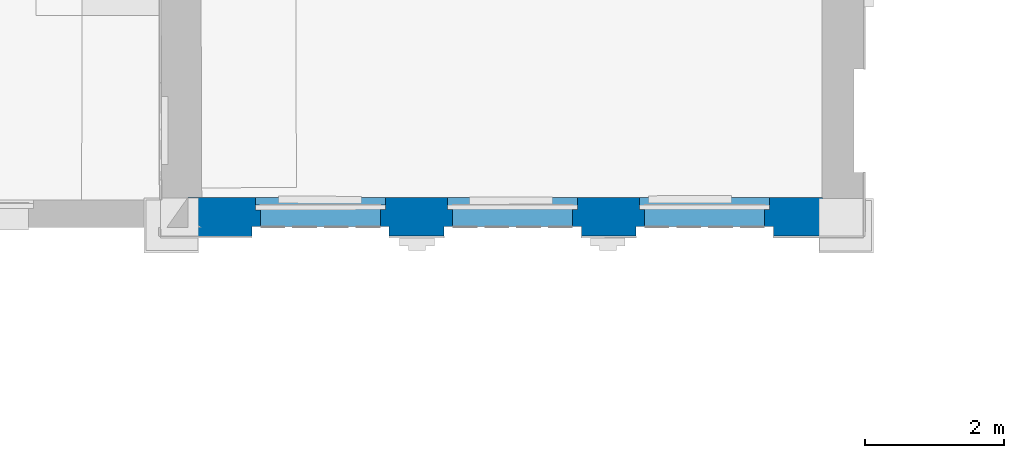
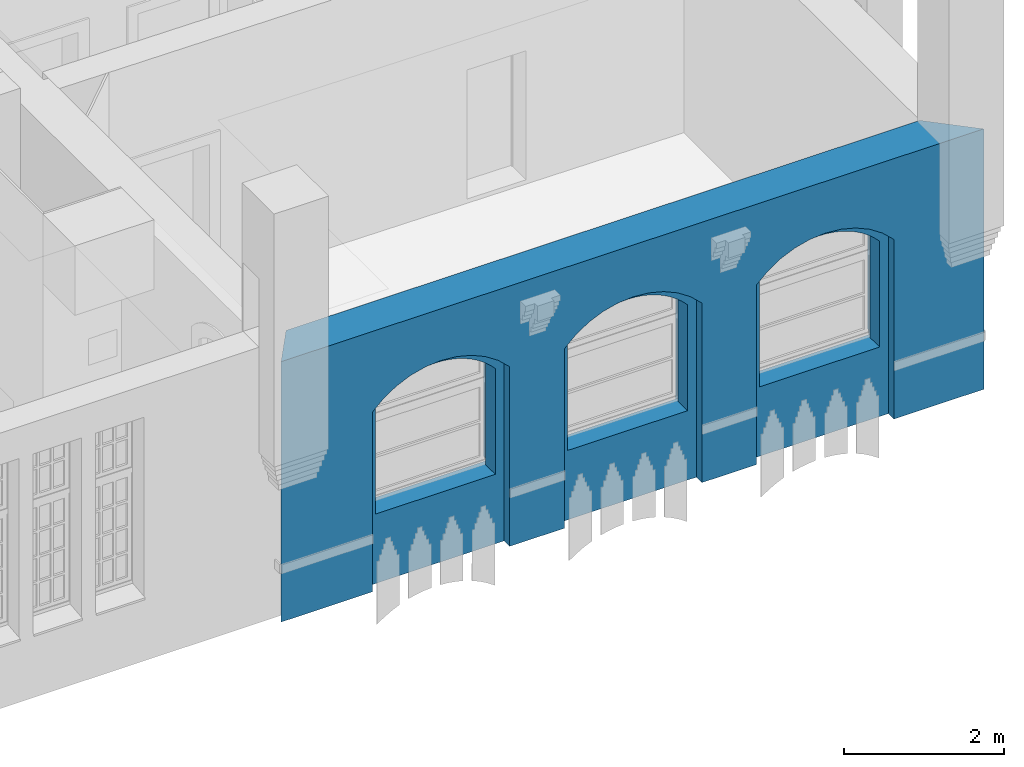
# One storey, part 26 of 90: 1 wall, 9 openings.
"""IFC2X3 building model written with IfcOpenShell, lengths in metres."""

import ifcopenshell
import ifcopenshell.guid

model = None  # the IFC model being written
_history = None  # IfcOwnerHistory: only IFC2X3 demands one
_inside = {}  # id of a spatial element -> (the spatial element, [elements in it])
_under = {}  # id of a project, library or spatial element -> (it, [spatial elements below it])
_declared = {}  # id of a project -> (the project, [libraries it declares])
_typed = {}  # id of a type object -> (the type object, [elements of that type])
_made_of = {}  # id of a material, layer set ... -> (it, [elements and type objects made of it])


def new_model(schema):
    """Start an empty IFC model of exactly this schema.

    Asked for "IFC4X3", IfcOpenShell would pick the latest addendum, in which some entities
    have other attributes; the version numbers below select the first issue.
    IFC2X3 requires an IfcOwnerHistory on every rooted entity: one is made here for all.
    """
    global model, _history
    if schema == "IFC4X3":
        model = ifcopenshell.file(schema_version=(4, 3, 0, 0))
    else:
        model = ifcopenshell.file(schema=schema)
    _inside.clear()
    _under.clear()
    _declared.clear()
    _typed.clear()
    _made_of.clear()
    _history = None
    if model.schema == "IFC2X3":
        org = make("IfcOrganization", Name="unknown")
        user = make(
            "IfcPersonAndOrganization",
            ThePerson=make("IfcPerson", FamilyName="unknown"),
            TheOrganization=org,
        )
        app = make(
            "IfcApplication",
            ApplicationDeveloper=org,
            Version="unknown",
            ApplicationFullName="unknown",
            ApplicationIdentifier="unknown",
        )
        _history = make(
            "IfcOwnerHistory",
            OwningUser=user,
            OwningApplication=app,
            ChangeAction="ADDED",
            CreationDate=0,
        )
    return model


def make(cls, **values):
    """One entity of the class cls with the attributes given. An attribute that is None is left unset."""
    return model.create_entity(
        cls, **{name: value for name, value in values.items() if value is not None}
    )


def entity(cls, *values):
    """Any entity or typed value of the class cls, its attributes in the order of the schema. None: left unset."""
    e = model.create_entity(cls)
    for i, value in enumerate(values):
        if value is not None:
            e[i] = value
    return e


def rooted(cls, **values):
    """An entity with a GlobalId (a new one), such as an element, a storey or a relation."""
    return make(cls, GlobalId=ifcopenshell.guid.new(), OwnerHistory=_history, **values)


def si_unit(unit_type, name, prefix=None):
    """IfcSIUnit, for example si_unit("LENGTHUNIT", "METRE", prefix="MILLI")."""
    return make("IfcSIUnit", UnitType=unit_type, Prefix=prefix, Name=name)


def converted_unit(unit_type, name, factor, base, dimensions=None, offset=None):
    """IfcConversionBasedUnit, such as the inch: factor (a typed value) times the base unit."""
    return make(
        "IfcConversionBasedUnit"
        if offset is None
        else "IfcConversionBasedUnitWithOffset",
        ConversionOffset=offset,
        Dimensions=None
        if dimensions is None
        else entity("IfcDimensionalExponents", *dimensions),
        UnitType=unit_type,
        Name=name,
        ConversionFactor=make(
            "IfcMeasureWithUnit", ValueComponent=factor, UnitComponent=base
        ),
    )


def derived_unit(unit_type, elements):
    """IfcDerivedUnit: a product of units, each with its exponent."""
    return make(
        "IfcDerivedUnit",
        Elements=[
            make("IfcDerivedUnitElement", Unit=unit, Exponent=power)
            for unit, power in elements
        ],
        UnitType=unit_type,
    )


def money_unit(currency):
    """IfcMonetaryUnit."""
    return make("IfcMonetaryUnit", Currency=currency)


def assignment(units):
    """IfcUnitAssignment: the units of a project."""
    return None if units is None else make("IfcUnitAssignment", Units=units)


def point(xyz):
    """IfcCartesianPoint."""
    return None if xyz is None else make("IfcCartesianPoint", Coordinates=xyz)


def direction(xyz):
    """IfcDirection."""
    return None if xyz is None else make("IfcDirection", DirectionRatios=xyz)


def frame(location, z_axis=None, x_axis=None):
    """IfcAxis2Placement3D, a coordinate frame: its origin and axes. An axis left out is left unset."""
    return make(
        "IfcAxis2Placement3D",
        Location=point(location),
        Axis=direction(z_axis),
        RefDirection=direction(x_axis),
    )


def frame_2d(location, x_axis=None):
    """IfcAxis2Placement2D, a coordinate frame in the plane: its origin and x axis."""
    return make(
        "IfcAxis2Placement2D", Location=point(location), RefDirection=direction(x_axis)
    )


def origin_with_axes():
    """The frame at (0, 0, 0) with the z axis (0, 0, 1) and the x axis (1, 0, 0) written out."""
    return frame((0.0, 0.0, 0.0), z_axis=(0.0, 0.0, 1.0), x_axis=(1.0, 0.0, 0.0))


def origin_2d_with_axis():
    """The frame at (0, 0) in the plane with the x axis (1, 0) written out."""
    return frame_2d((0.0, 0.0), x_axis=(1.0, 0.0))


def place(relative_to, where):
    """IfcLocalPlacement: puts the frame where relative to a parent placement (None: the world)."""
    return make(
        "IfcLocalPlacement", PlacementRelTo=relative_to, RelativePlacement=where
    )


def context(
    kind, dimensions, precision=None, world=None, true_north=None, identifier=None
):
    """IfcGeometricRepresentationContext, for example the 3D "Model" context."""
    return make(
        "IfcGeometricRepresentationContext",
        ContextIdentifier=identifier,
        ContextType=kind,
        CoordinateSpaceDimension=dimensions,
        Precision=precision,
        WorldCoordinateSystem=world,
        TrueNorth=true_north,
    )


def subcontext(parent, identifier, kind, view, scale=None):
    """IfcGeometricRepresentationSubContext, for example "Body" below "Model"."""
    return make(
        "IfcGeometricRepresentationSubContext",
        ContextIdentifier=identifier,
        ContextType=kind,
        ParentContext=parent,
        TargetScale=scale,
        TargetView=view,
    )


def project(units=None, contexts=None):
    """IfcProject with its units and contexts."""
    return rooted(
        "IfcProject",
        Name="project",
        RepresentationContexts=contexts,
        UnitsInContext=assignment(units),
    )


def spatial(cls, under=None, at=None, **own):
    """A site, building, storey or space (cls), placed at a placement, below another one or the project."""
    s = rooted(cls, ObjectPlacement=at, **own)
    if under is not None:
        _under.setdefault(under.id(), (under, []))[1].append(s)
    return s


def polyline(points):
    """IfcPolyline through the points."""
    return make("IfcPolyline", Points=[point(p) for p in points])


def profile(cls, at=None, kind="AREA", **sizes):
    """A parametric profile (cls). Its sizes go by their IFC names, for example OverallWidth=200.0."""
    return make(cls, ProfileType=kind, Position=at, **sizes)


def rectangle(**sizes):
    """IfcRectangleProfileDef."""
    return profile("IfcRectangleProfileDef", **sizes)


def outline(outer, holes=None, kind="AREA"):
    """IfcArbitraryClosedProfileDef: a profile drawn as a closed curve; with holes, ...WithVoids."""
    if holes is None:
        return make("IfcArbitraryClosedProfileDef", ProfileType=kind, OuterCurve=outer)
    return make(
        "IfcArbitraryProfileDefWithVoids",
        ProfileType=kind,
        OuterCurve=outer,
        InnerCurves=holes,
    )


def extrude(swept, where, along, depth):
    """IfcExtrudedAreaSolid: the profile swept, set in the frame where, extruded along a direction by depth."""
    return make(
        "IfcExtrudedAreaSolid",
        SweptArea=swept,
        Position=where,
        ExtrudedDirection=direction(along),
        Depth=depth,
    )


def shape(context_of_items, identifier, shape_type, items):
    """IfcShapeRepresentation: the items that make up one representation, for example the "Body"."""
    return make(
        "IfcShapeRepresentation",
        ContextOfItems=context_of_items,
        RepresentationIdentifier=identifier,
        RepresentationType=shape_type,
        Items=items,
    )


def material(Name=None, Category=None):
    """IfcMaterial."""
    return make("IfcMaterial", Name=Name, Category=Category)


def layer(
    of_material, thickness, ventilated=None, Name=None, Category=None, Priority=None
):
    """IfcMaterialLayer: one layer of a wall or slab, of a material (None: an air gap)."""
    return make(
        "IfcMaterialLayer",
        Material=of_material,
        LayerThickness=thickness,
        IsVentilated=ventilated,
        Name=Name,
        Category=Category,
        Priority=Priority,
    )


def layer_set(layers, Name=None):
    """IfcMaterialLayerSet."""
    return make("IfcMaterialLayerSet", MaterialLayers=layers, LayerSetName=Name)


def layer_usage(for_layer_set, set_direction, sense, offset, extent=None):
    """IfcMaterialLayerSetUsage: how a layer set lies in its element."""
    return make(
        "IfcMaterialLayerSetUsage",
        ForLayerSet=for_layer_set,
        LayerSetDirection=set_direction,
        DirectionSense=sense,
        OffsetFromReferenceLine=offset,
        ReferenceExtent=extent,
    )


def made_of(thing, what):
    """Note that an element or type object is made of a material, layer set ...; save() writes the relation."""
    if what is not None:
        _made_of.setdefault(what.id(), (what, []))[1].append(thing)
    return thing


def type_object(cls, material=None, **own):
    """A type object (cls), such as IfcWallType, which elements share."""
    return made_of(rooted(cls, **own), material)


def element(
    cls,
    number,
    at=None,
    inside=None,
    cuts=None,
    type_object=None,
    material=None,
    context=None,
    identifier="Body",
    shape_type=None,
    held_by="IfcProductDefinitionShape",
    body=None,
    shapes=None,
    **own,
):
    """One element of the class cls, such as IfcWall. Its Tag is "e" and its number.

    at: its placement. inside: the storey or other place that contains it. cuts: it is an
    opening in that element (IfcRelVoidsElement). A single representation is given by context,
    identifier, shape_type and body (its items); several are given by shapes. held_by: the class
    of the entity that holds the representations. save() writes the other relations.
    """
    e = rooted(cls, Tag="e%d" % number, ObjectPlacement=at, **own)
    if body is not None:
        shapes = [shape(context, identifier, shape_type, body)]
    if shapes is not None:
        e.Representation = make(held_by, Representations=shapes)
    if inside is not None:
        _inside.setdefault(inside.id(), (inside, []))[1].append(e)
    if cuts is not None:
        rooted(
            "IfcRelVoidsElement", RelatingBuildingElement=cuts, RelatedOpeningElement=e
        )
    if type_object is not None:
        _typed.setdefault(type_object.id(), (type_object, []))[1].append(e)
    return made_of(e, material)


def aggregate(whole, parts):
    """IfcRelAggregates: a whole, such as a stair, and the parts it consists of."""
    return rooted("IfcRelAggregates", RelatingObject=whole, RelatedObjects=parts)


def save(model, path):
    """Write the relations noted so far, then the file.

    IfcRelAggregates (storeys below a building ...), IfcRelContainedInSpatialStructure (elements
    in a storey), IfcRelDefinesByType, IfcRelAssociatesMaterial and IfcRelDeclares: one each for
    every whole, place, type object, material and project.
    """
    for whole, parts in _under.values():
        aggregate(whole, parts)
    for where, things in _inside.values():
        rooted(
            "IfcRelContainedInSpatialStructure",
            RelatedElements=things,
            RelatingStructure=where,
        )
    for kind, things in _typed.values():
        rooted("IfcRelDefinesByType", RelatedObjects=things, RelatingType=kind)
    for what, things in _made_of.values():
        rooted("IfcRelAssociatesMaterial", RelatedObjects=things, RelatingMaterial=what)
    for by, libraries in _declared.values():
        rooted("IfcRelDeclares", RelatingContext=by, RelatedDefinitions=libraries)
    model.write(path)


model = new_model("IFC2X3")

# Units and contexts
model_context = context("Model", 3, precision=1e-05, world=origin_with_axes(), true_north=direction((0.0, 1.0)))
body_context = subcontext(model_context, "Body", "Model", "MODEL_VIEW")
ifc_project = project(units=[si_unit("LENGTHUNIT", "METRE"), si_unit("AREAUNIT", "SQUARE_METRE"), si_unit("VOLUMEUNIT", "CUBIC_METRE"), converted_unit("PLANEANGLEUNIT", "DEGREE", entity("IfcPlaneAngleMeasure", 0.0174532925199), si_unit("PLANEANGLEUNIT", "RADIAN"), dimensions=[0, 0, 0, 0, 0, 0, 0]), money_unit("EUR"), converted_unit("TIMEUNIT", "Year", entity("IfcTimeMeasure", 31556926.0), si_unit("TIMEUNIT", "SECOND"), dimensions=[0, 0, 1, 0, 0, 0, 0]), si_unit("MASSUNIT", "GRAM", prefix="KILO"), si_unit("THERMODYNAMICTEMPERATUREUNIT", "DEGREE_CELSIUS"), si_unit("LUMINOUSINTENSITYUNIT", "LUMEN"), si_unit("ENERGYUNIT", "JOULE", prefix="MEGA"), derived_unit("THERMALCONDUCTANCEUNIT", [(si_unit("POWERUNIT", "WATT"), 1), (si_unit("LENGTHUNIT", "METRE"), -1), (si_unit("THERMODYNAMICTEMPERATUREUNIT", "KELVIN"), -1)]), derived_unit("SPECIFICHEATCAPACITYUNIT", [(si_unit("ENERGYUNIT", "JOULE"), 1), (si_unit("MASSUNIT", "GRAM", prefix="KILO"), -1), (si_unit("THERMODYNAMICTEMPERATUREUNIT", "KELVIN"), -1)]), derived_unit("MASSDENSITYUNIT", [(si_unit("MASSUNIT", "GRAM", prefix="KILO"), 1), (si_unit("VOLUMEUNIT", "CUBIC_METRE"), -1)])], contexts=[model_context])

# Site, building, storey
site_placement = place(None, origin_with_axes())
site = spatial("IfcSite", under=ifc_project, at=site_placement, Name="Gelände", CompositionType="ELEMENT")
building_placement = place(site_placement, origin_with_axes())
building = spatial("IfcBuilding", under=site, at=building_placement, Name="Gebäude", CompositionType="ELEMENT")
storey_placement = place(building_placement, frame((0.0, 0.0, 3.7), z_axis=(0.0, 0.0, 1.0), x_axis=(1.0, 0.0, 0.0)))
storey = spatial("IfcBuildingStorey", under=building, at=storey_placement, Name="1.OBERGESCHOSS", CompositionType="ELEMENT", Elevation=3.7)

# Wall, openings
ifc_material = material(Name="05_ALLGEMEIN - TRAGENDE BAUTEILE")
ifc_layer = layer(ifc_material, 0.56, ventilated="UNKNOWN")
ifc_layer_set = layer_set([ifc_layer], Name="05_ALLGEMEIN - TRAGENDE BAUTEILE 0.56")
ifc_layer_usage = layer_usage(ifc_layer_set, "AXIS2", "NEGATIVE", 0.56)
wall_type = type_object("IfcWallType", Name="05_ALLGEMEIN - TRAGENDE BAUTEILE 560", PredefinedType="ELEMENTEDWALL")
wall_placement = place(storey_placement, frame((21.9753819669, 9.88892838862, -0.1), z_axis=(0.0, 0.0, 1.0), x_axis=(0.999999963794, 0.000269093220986, 0.0)))
wall = element("IfcWallStandardCase", 1, at=wall_placement, inside=storey, type_object=wall_type, material=ifc_layer_usage, Name="Wand-036", ObjectType="ELEMENTEDWALL", context=body_context, shape_type="SweptSolid", body=[
    extrude(outline(polyline([(0.0, 0.0), (10.1378081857, 0.0), (9.53838563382, 0.56), (0.394865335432, 0.56), (0.0, 0.0)])), origin_with_axes(), (0.0, 0.0, 1.0), 3.97),
])
opening_1_placement = place(wall_placement, frame((7.84659599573, 0.0, 1.059), z_axis=(0.0, 0.0, 1.0), x_axis=(1.0, 0.0, 0.0)))
element("IfcOpeningElement", 2, at=opening_1_placement, cuts=wall, Name="Fenster-015", context=body_context, shape_type="SweptSolid", body=[
    extrude(outline(polyline([(-0.866257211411, 0.0), (-0.866257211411, -1.61365803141), (-0.790111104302, -1.69099270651), (-0.707090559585, -1.76089600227), (-0.617917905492, -1.82275971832), (-0.523368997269, -1.87604560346), (-0.42426646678, -1.92029003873), (-0.321472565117, -1.95510807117), (-0.215881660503, -1.98019676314), (-0.108412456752, -1.99533782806), (0.0, -2.00039952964), (0.108412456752, -1.99533782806), (0.215881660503, -1.98019676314), (0.321472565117, -1.95510807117), (0.42426646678, -1.92029003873), (0.523368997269, -1.87604560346), (0.617917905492, -1.82275971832), (0.707090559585, -1.76089600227), (0.790111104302, -1.69099270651), (0.866257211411, -1.61365803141), (0.866257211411, 0.0), (-0.866257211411, 0.0)])), frame((0.0, 0.382213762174, 0.0), z_axis=(0.0, -1.0, 0.0), x_axis=(-1.0, 0.0, 0.0)), (0.0, 0.0, 1.0), 0.942213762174),
    extrude(outline(polyline([(0.936257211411, 0.0), (0.936257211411, 1.64), (0.855182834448, 1.72583435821), (0.766273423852, 1.80352417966), (0.67034355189, 1.87235768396), (0.568272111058, 1.93170423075), (0.460994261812, 1.98102009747), (0.349492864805, 2.01985346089), (0.234789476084, 2.04784853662), (0.117934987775, 2.06474883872), (0.0, 2.07039952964), (-0.117934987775, 2.06474883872), (-0.234789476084, 2.04784853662), (-0.349492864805, 2.01985346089), (-0.460994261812, 1.98102009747), (-0.568272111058, 1.93170423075), (-0.67034355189, 1.87235768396), (-0.766273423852, 1.80352417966), (-0.855182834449, 1.72583435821), (-0.936257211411, 1.64), (-0.936257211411, 0.0), (0.936257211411, 0.0)])), frame((0.0, 0.382213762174, 0.0), z_axis=(0.0, 1.0, 0.0), x_axis=(-1.0, 0.0, 0.0)), (0.0, 0.0, 1.0), 0.737786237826),
])
opening_2_placement = place(wall_placement, frame((2.30744463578, 0.0, 0.0), z_axis=(0.0, 0.0, 1.0), x_axis=(1.0, 0.0, 0.0)))
element("IfcOpeningElement", 3, at=opening_2_placement, cuts=wall, Name="Fenster-015", ObjectType="Recess", context=body_context, shape_type="SweptSolid", body=[
    extrude(outline(polyline([(-0.989000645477, 0.0), (-0.989000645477, -2.73999999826), (-0.826743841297, -2.89267663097), (-0.641269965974, -3.01611437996), (-0.437787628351, -3.10684679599), (-0.222011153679, -3.16232591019), (9.42325673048e-09, -3.18099366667), (0.222011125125, -3.16232591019), (0.437787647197, -3.10684679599), (0.64126998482, -3.01611437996), (0.826743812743, -2.89267663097), (0.989000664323, -2.73999999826), (0.989001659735, -2.73989998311), (0.989000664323, 0.0), (-0.989000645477, 0.0)])), frame((0.0, 0.137560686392, 0.0), z_axis=(0.0, 1.0, 0.0), x_axis=(1.0, 0.0, 0.0)), (0.0, 0.0, -1.0), 0.697560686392),
])
opening_3_placement = place(wall_placement, frame((5.07770536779, 0.0, 1.05854266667), z_axis=(0.0, 0.0, 1.0), x_axis=(1.0, 0.0, 0.0)))
element("IfcOpeningElement", 4, at=opening_3_placement, cuts=wall, Name="Fenster-015", context=body_context, shape_type="SweptSolid", body=[
    extrude(outline(polyline([(-0.866257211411, 0.0), (-0.866257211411, -1.61365803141), (-0.790111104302, -1.69099270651), (-0.707090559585, -1.76089600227), (-0.617917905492, -1.82275971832), (-0.523368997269, -1.87604560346), (-0.42426646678, -1.92029003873), (-0.321472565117, -1.95510807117), (-0.215881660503, -1.98019676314), (-0.108412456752, -1.99533782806), (0.0, -2.00039952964), (0.108412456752, -1.99533782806), (0.215881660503, -1.98019676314), (0.321472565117, -1.95510807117), (0.42426646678, -1.92029003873), (0.523368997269, -1.87604560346), (0.617917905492, -1.82275971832), (0.707090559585, -1.76089600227), (0.790111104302, -1.69099270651), (0.866257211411, -1.61365803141), (0.866257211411, 0.0), (-0.866257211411, 0.0)])), frame((0.0, 0.382213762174, 0.0), z_axis=(0.0, -1.0, 0.0), x_axis=(-1.0, 0.0, 0.0)), (0.0, 0.0, 1.0), 0.942213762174),
    extrude(outline(polyline([(0.936257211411, 0.0), (0.936257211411, 1.64), (0.855182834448, 1.72583435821), (0.766273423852, 1.80352417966), (0.67034355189, 1.87235768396), (0.568272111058, 1.93170423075), (0.460994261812, 1.98102009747), (0.349492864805, 2.01985346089), (0.234789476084, 2.04784853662), (0.117934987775, 2.06474883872), (0.0, 2.07039952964), (-0.117934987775, 2.06474883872), (-0.234789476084, 2.04784853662), (-0.349492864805, 2.01985346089), (-0.460994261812, 1.98102009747), (-0.568272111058, 1.93170423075), (-0.67034355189, 1.87235768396), (-0.766273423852, 1.80352417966), (-0.855182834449, 1.72583435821), (-0.936257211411, 1.64), (-0.936257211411, 0.0), (0.936257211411, 0.0)])), frame((0.0, 0.382213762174, 0.0), z_axis=(0.0, 1.0, 0.0), x_axis=(-1.0, 0.0, 0.0)), (0.0, 0.0, 1.0), 0.737786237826),
])
opening_4_placement = place(wall_placement, frame((2.30481313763, 0.0, 1.059), z_axis=(0.0, 0.0, 1.0), x_axis=(1.0, 0.0, 0.0)))
element("IfcOpeningElement", 5, at=opening_4_placement, cuts=wall, Name="Fenster-015", context=body_context, shape_type="SweptSolid", body=[
    extrude(outline(polyline([(-0.866257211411, 0.0), (-0.866257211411, -1.61365803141), (-0.790111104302, -1.69099270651), (-0.707090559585, -1.76089600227), (-0.617917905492, -1.82275971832), (-0.523368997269, -1.87604560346), (-0.42426646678, -1.92029003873), (-0.321472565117, -1.95510807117), (-0.215881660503, -1.98019676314), (-0.108412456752, -1.99533782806), (0.0, -2.00039952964), (0.108412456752, -1.99533782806), (0.215881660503, -1.98019676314), (0.321472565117, -1.95510807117), (0.42426646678, -1.92029003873), (0.523368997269, -1.87604560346), (0.617917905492, -1.82275971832), (0.707090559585, -1.76089600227), (0.790111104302, -1.69099270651), (0.866257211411, -1.61365803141), (0.866257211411, 0.0), (-0.866257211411, 0.0)])), frame((0.0, 0.382213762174, 0.0), z_axis=(0.0, -1.0, 0.0), x_axis=(-1.0, 0.0, 0.0)), (0.0, 0.0, 1.0), 0.942213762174),
    extrude(outline(polyline([(0.936257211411, 0.0), (0.936257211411, 1.64), (0.855182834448, 1.72583435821), (0.766273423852, 1.80352417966), (0.67034355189, 1.87235768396), (0.568272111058, 1.93170423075), (0.460994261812, 1.98102009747), (0.349492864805, 2.01985346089), (0.234789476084, 2.04784853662), (0.117934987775, 2.06474883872), (0.0, 2.07039952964), (-0.117934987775, 2.06474883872), (-0.234789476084, 2.04784853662), (-0.349492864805, 2.01985346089), (-0.460994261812, 1.98102009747), (-0.568272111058, 1.93170423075), (-0.67034355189, 1.87235768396), (-0.766273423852, 1.80352417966), (-0.855182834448, 1.72583435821), (-0.936257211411, 1.64), (-0.936257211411, 0.0), (0.936257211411, 0.0)])), frame((0.0, 0.382213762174, 0.0), z_axis=(0.0, 1.0, 0.0), x_axis=(-1.0, 0.0, 0.0)), (0.0, 0.0, 1.0), 0.737786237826),
])
opening_5_placement = place(wall_placement, frame((2.29789535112, 0.0, 0.2), z_axis=(0.0, 0.0, 1.0), x_axis=(1.0, 0.0, 0.0)))
element("IfcOpeningElement", 6, at=opening_5_placement, cuts=wall, Name="Fenster-019", ObjectType="Recess", context=body_context, shape_type="SweptSolid", body=[
    extrude(rectangle(XDim=1.95293261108, YDim=0.859, at=origin_2d_with_axis()), frame((0.0, 0.452213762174, 0.4295), z_axis=(0.0, -1.0, 0.0), x_axis=(1.0, 0.0, 0.0)), (0.0, 0.0, -1.0), 0.667786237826),
])
opening_6_placement = place(wall_placement, frame((5.07886949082, 0.0, 0.2), z_axis=(0.0, 0.0, 1.0), x_axis=(1.0, 0.0, 0.0)))
element("IfcOpeningElement", 7, at=opening_6_placement, cuts=wall, Name="Fenster-019", ObjectType="Recess", context=body_context, shape_type="SweptSolid", body=[
    extrude(rectangle(XDim=1.87484266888, YDim=0.859, at=origin_2d_with_axis()), frame((0.0, 0.432702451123, 0.4295), z_axis=(0.0, -1.0, 0.0), x_axis=(1.0, 0.0, 0.0)), (0.0, 0.0, -1.0), 0.687297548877),
])
opening_7_placement = place(wall_placement, frame((7.82796399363, 0.0, 0.2), z_axis=(0.0, 0.0, 1.0), x_axis=(1.0, 0.0, 0.0)))
element("IfcOpeningElement", 8, at=opening_7_placement, cuts=wall, Name="Fenster-019", ObjectType="Recess", context=body_context, shape_type="SweptSolid", body=[
    extrude(rectangle(XDim=1.93244143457, YDim=0.859, at=origin_2d_with_axis()), frame((0.0, 0.438600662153, 0.4295), z_axis=(0.0, -1.0, 0.0), x_axis=(1.0, 0.0, 0.0)), (0.0, 0.0, -1.0), 0.681399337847),
])
opening_8_placement = place(wall_placement, frame((5.08033686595, 0.0, 0.0), z_axis=(0.0, 0.0, 1.0), x_axis=(1.0, 0.0, 0.0)))
element("IfcOpeningElement", 9, at=opening_8_placement, cuts=wall, Name="Fenster-015", ObjectType="Recess", context=body_context, shape_type="SweptSolid", body=[
    extrude(outline(polyline([(-0.989000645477, 0.0), (-0.989000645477, -2.73999999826), (-0.826743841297, -2.89267663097), (-0.641269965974, -3.01611437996), (-0.437787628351, -3.10684679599), (-0.222011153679, -3.16232591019), (9.42326028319e-09, -3.18099366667), (0.222011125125, -3.16232591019), (0.437787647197, -3.10684679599), (0.64126998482, -3.01611437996), (0.826743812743, -2.89267663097), (0.989000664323, -2.73999999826), (0.989001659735, -2.73989998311), (0.989000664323, 0.0), (-0.989000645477, 0.0)])), frame((0.0, 0.137560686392, 0.0), z_axis=(0.0, 1.0, 0.0), x_axis=(1.0, 0.0, 0.0)), (0.0, 0.0, -1.0), 0.697560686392),
])
opening_9_placement = place(wall_placement, frame((7.84922749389, 0.0, 0.0), z_axis=(0.0, 0.0, 1.0), x_axis=(1.0, 0.0, 0.0)))
element("IfcOpeningElement", 10, at=opening_9_placement, cuts=wall, Name="Fenster-015", ObjectType="Recess", context=body_context, shape_type="SweptSolid", body=[
    extrude(outline(polyline([(-0.989000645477, 0.0), (-0.989000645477, -2.73999999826), (-0.826743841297, -2.89267663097), (-0.641269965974, -3.01611437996), (-0.437787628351, -3.10684679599), (-0.222011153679, -3.16232591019), (9.42326028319e-09, -3.18099366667), (0.222011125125, -3.16232591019), (0.437787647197, -3.10684679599), (0.64126998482, -3.01611437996), (0.826743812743, -2.89267663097), (0.989000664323, -2.73999999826), (0.989001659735, -2.73989998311), (0.989000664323, 0.0), (-0.989000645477, 0.0)])), frame((0.0, 0.137560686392, 0.0), z_axis=(0.0, 1.0, 0.0), x_axis=(1.0, 0.0, 0.0)), (0.0, 0.0, -1.0), 0.697560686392),
])

save(model, "model.ifc")
